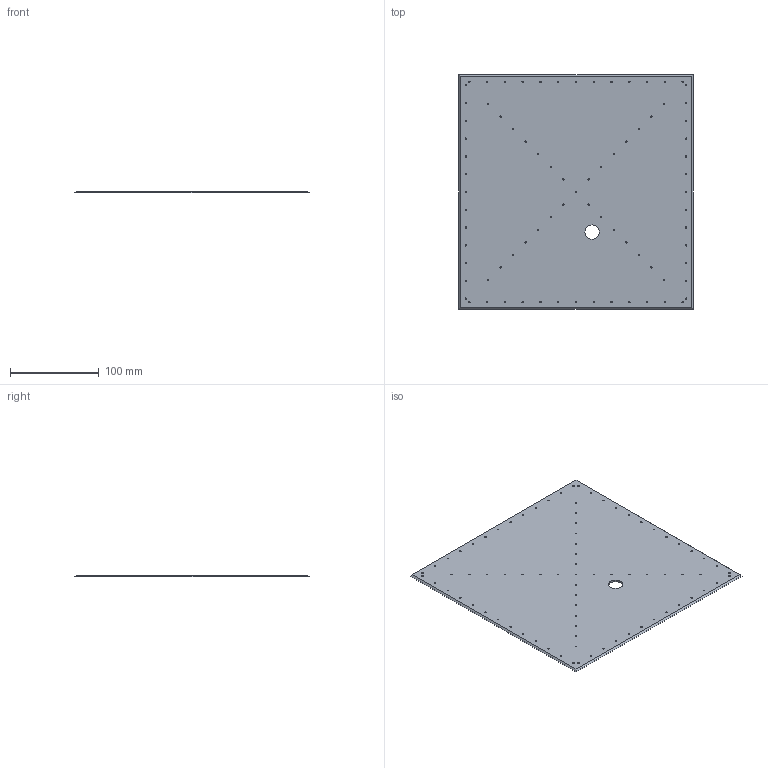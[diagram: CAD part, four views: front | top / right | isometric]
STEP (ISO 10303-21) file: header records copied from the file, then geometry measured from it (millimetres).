
FILE_DESCRIPTION (( 'STEP AP214' ), '1' );
FILE_NAME ('SC9.STEP', '2016-02-26T17:29:36', ( '' ), ( '' ), 'SwSTEP 2.0', 'SolidWorks 2012', '' );
FILE_SCHEMA (( 'AUTOMOTIVE_DESIGN' ));
Length unit declared in the file: millimetre
Products named in the file (1): SC9
Bounding box: 264 x 264 x 2 mm (x, y, z)
Volume: 136562.8 mm3; surface area: 140447.2 mm2
Topology: 1 solids, 1 shells, 170 faces, 504 edges, 336 vertices
Faces by surface type: cylinder 164, plane 6
Entity records: 6258 total; most frequent: DIRECTION 1174, CARTESIAN_POINT 1011, ORIENTED_EDGE 1008, EDGE_CURVE 504, AXIS2_PLACEMENT_3D 499, VERTEX_POINT 336, EDGE_LOOP 334, CIRCLE 328
